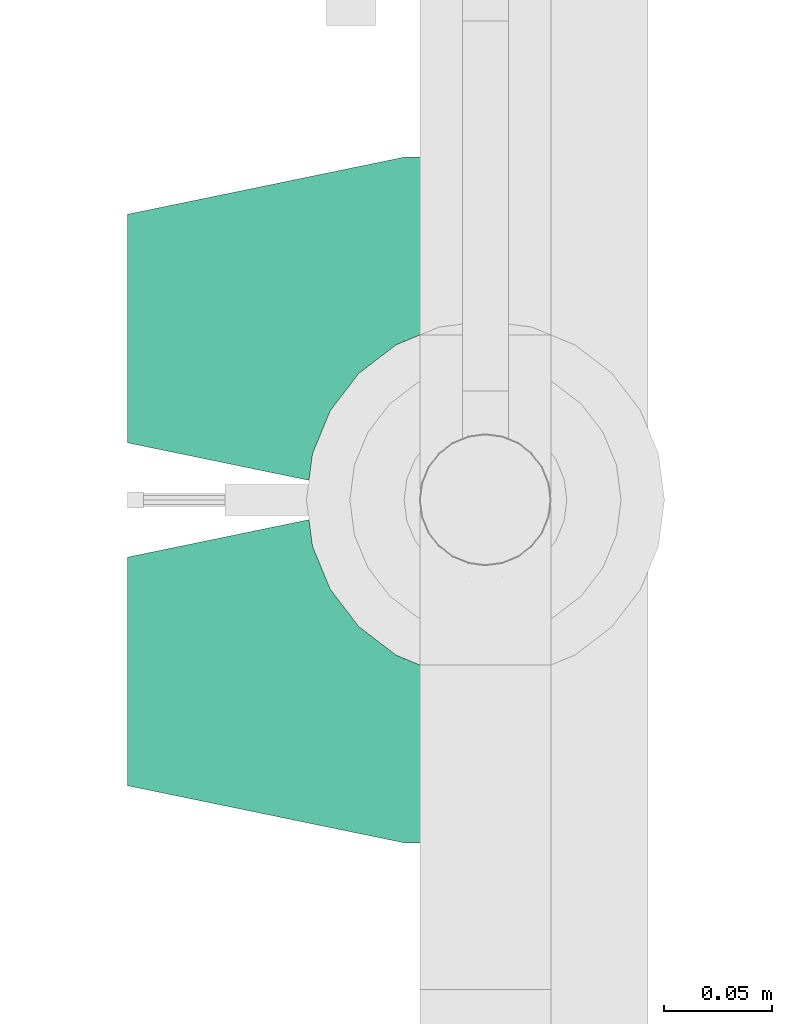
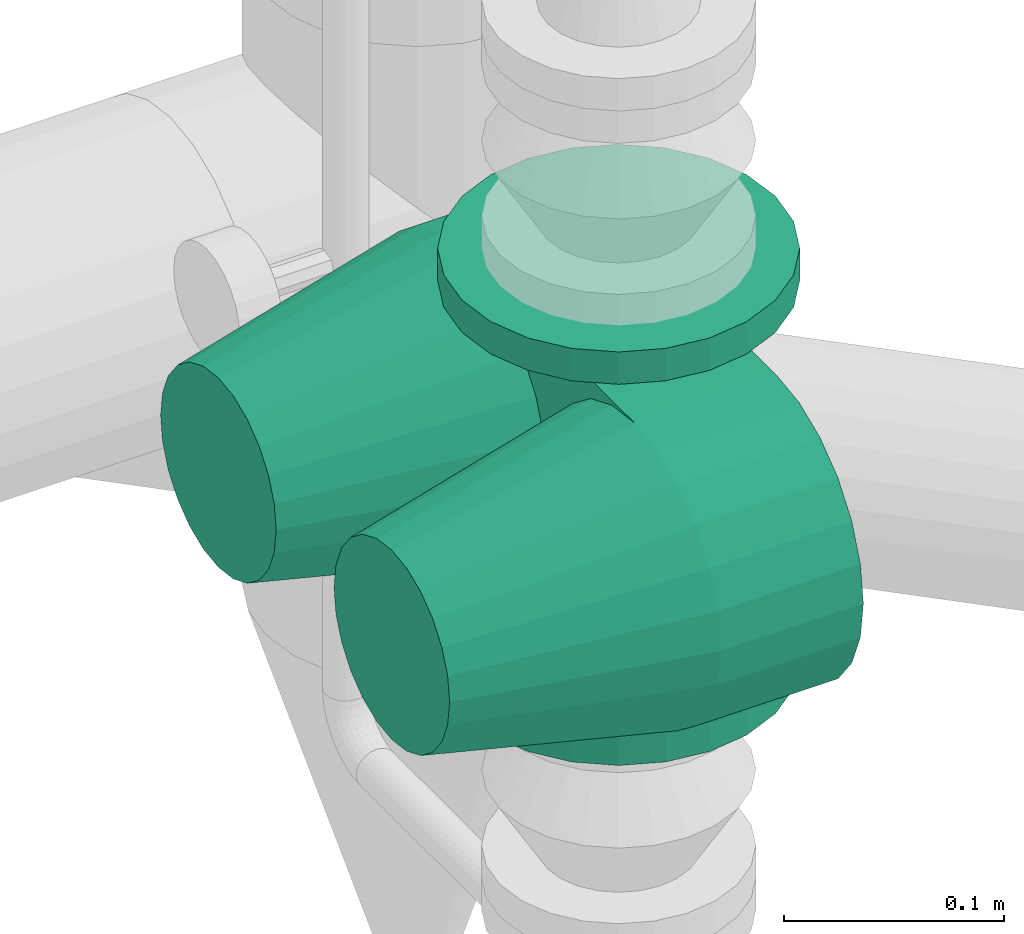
# One storey, part 289 of 374: 1 flow moving device.
"""IFC2X3 building model written with IfcOpenShell, lengths in metres."""

import ifcopenshell
import ifcopenshell.guid

model = None  # the IFC model being written
_history = None  # IfcOwnerHistory: only IFC2X3 demands one
_inside = {}  # id of a spatial element -> (the spatial element, [elements in it])
_under = {}  # id of a project, library or spatial element -> (it, [spatial elements below it])
_declared = {}  # id of a project -> (the project, [libraries it declares])
_typed = {}  # id of a type object -> (the type object, [elements of that type])
_made_of = {}  # id of a material, layer set ... -> (it, [elements and type objects made of it])


def new_model(schema):
    """Start an empty IFC model of exactly this schema.

    Asked for "IFC4X3", IfcOpenShell would pick the latest addendum, in which some entities
    have other attributes; the version numbers below select the first issue.
    IFC2X3 requires an IfcOwnerHistory on every rooted entity: one is made here for all.
    """
    global model, _history
    if schema == "IFC4X3":
        model = ifcopenshell.file(schema_version=(4, 3, 0, 0))
    else:
        model = ifcopenshell.file(schema=schema)
    _inside.clear()
    _under.clear()
    _declared.clear()
    _typed.clear()
    _made_of.clear()
    _history = None
    if model.schema == "IFC2X3":
        org = make("IfcOrganization", Name="unknown")
        user = make(
            "IfcPersonAndOrganization",
            ThePerson=make("IfcPerson", FamilyName="unknown"),
            TheOrganization=org,
        )
        app = make(
            "IfcApplication",
            ApplicationDeveloper=org,
            Version="unknown",
            ApplicationFullName="unknown",
            ApplicationIdentifier="unknown",
        )
        _history = make(
            "IfcOwnerHistory",
            OwningUser=user,
            OwningApplication=app,
            ChangeAction="ADDED",
            CreationDate=0,
        )
    return model


def make(cls, **values):
    """One entity of the class cls with the attributes given. An attribute that is None is left unset."""
    return model.create_entity(
        cls, **{name: value for name, value in values.items() if value is not None}
    )


def rooted(cls, **values):
    """An entity with a GlobalId (a new one), such as an element, a storey or a relation."""
    return make(cls, GlobalId=ifcopenshell.guid.new(), OwnerHistory=_history, **values)


def si_unit(unit_type, name, prefix=None):
    """IfcSIUnit, for example si_unit("LENGTHUNIT", "METRE", prefix="MILLI")."""
    return make("IfcSIUnit", UnitType=unit_type, Prefix=prefix, Name=name)


def assignment(units):
    """IfcUnitAssignment: the units of a project."""
    return None if units is None else make("IfcUnitAssignment", Units=units)


def point(xyz):
    """IfcCartesianPoint."""
    return None if xyz is None else make("IfcCartesianPoint", Coordinates=xyz)


def direction(xyz):
    """IfcDirection."""
    return None if xyz is None else make("IfcDirection", DirectionRatios=xyz)


def frame(location, z_axis=None, x_axis=None):
    """IfcAxis2Placement3D, a coordinate frame: its origin and axes. An axis left out is left unset."""
    return make(
        "IfcAxis2Placement3D",
        Location=point(location),
        Axis=direction(z_axis),
        RefDirection=direction(x_axis),
    )


def origin():
    """The frame at (0, 0, 0) with its axes left unset."""
    return frame((0.0, 0.0, 0.0))


def place(relative_to, where):
    """IfcLocalPlacement: puts the frame where relative to a parent placement (None: the world)."""
    return make(
        "IfcLocalPlacement", PlacementRelTo=relative_to, RelativePlacement=where
    )


def context(
    kind, dimensions, precision=None, world=None, true_north=None, identifier=None
):
    """IfcGeometricRepresentationContext, for example the 3D "Model" context."""
    return make(
        "IfcGeometricRepresentationContext",
        ContextIdentifier=identifier,
        ContextType=kind,
        CoordinateSpaceDimension=dimensions,
        Precision=precision,
        WorldCoordinateSystem=world,
        TrueNorth=true_north,
    )


def subcontext(parent, identifier, kind, view, scale=None):
    """IfcGeometricRepresentationSubContext, for example "Body" below "Model"."""
    return make(
        "IfcGeometricRepresentationSubContext",
        ContextIdentifier=identifier,
        ContextType=kind,
        ParentContext=parent,
        TargetScale=scale,
        TargetView=view,
    )


def project(units=None, contexts=None):
    """IfcProject with its units and contexts."""
    return rooted(
        "IfcProject",
        Name="project",
        RepresentationContexts=contexts,
        UnitsInContext=assignment(units),
    )


def spatial(cls, under=None, at=None, **own):
    """A site, building, storey or space (cls), placed at a placement, below another one or the project."""
    s = rooted(cls, ObjectPlacement=at, **own)
    if under is not None:
        _under.setdefault(under.id(), (under, []))[1].append(s)
    return s


def faces_of(points, faces, orient=None, outer=None):
    """IfcFace entities. A face is a list of loops; a loop is a list of indices into points, from 0.

    orient and outer hold one flag for each loop. By default every Orientation is true, the
    first loop of a face is its IfcFaceOuterBound and the others are IfcFaceBound.
    """
    made = []
    for i, loops in enumerate(faces):
        bounds = []
        for j, loop in enumerate(loops):
            is_outer = j == 0 if outer is None else outer[i][j]
            bounds.append(
                make(
                    "IfcFaceOuterBound" if is_outer else "IfcFaceBound",
                    Bound=make("IfcPolyLoop", Polygon=[points[k] for k in loop]),
                    Orientation=True if orient is None else orient[i][j],
                )
            )
        made.append(make("IfcFace", Bounds=bounds))
    return made


def open_shell(faces, orient=None, outer=None):
    """The faces of one IfcOpenShell. surface_model builds it on its shared points."""
    return ("IfcOpenShell", faces, orient, outer)


def surface_model(cls, points, shells):
    """IfcFaceBasedSurfaceModel or IfcShellBasedSurfaceModel (cls): surfaces that need not close."""
    shared = [point(p) for p in points]
    made = [make(c, CfsFaces=faces_of(shared, fs, o, b)) for c, fs, o, b in shells]
    if cls == "IfcFaceBasedSurfaceModel":
        return make(cls, FbsmFaces=made)
    return make(cls, SbsmBoundary=made)


def shape(context_of_items, identifier, shape_type, items):
    """IfcShapeRepresentation: the items that make up one representation, for example the "Body"."""
    return make(
        "IfcShapeRepresentation",
        ContextOfItems=context_of_items,
        RepresentationIdentifier=identifier,
        RepresentationType=shape_type,
        Items=items,
    )


def source(mapping_origin, context_of_items, identifier, shape_type, items):
    """IfcRepresentationMap: a shape defined once, which mapped items show again and again."""
    return make(
        "IfcRepresentationMap",
        MappingOrigin=mapping_origin,
        MappedRepresentation=shape(context_of_items, identifier, shape_type, items),
    )


def transform(
    local_origin,
    x_axis=None,
    y_axis=None,
    z_axis=None,
    scale=None,
    scale2=None,
    scale3=None,
    uniform=True,
):
    """IfcCartesianTransformationOperator3D, or its non-uniform kind. x_axis, y_axis, z_axis: its Axis1, 2, 3."""
    if uniform:
        return make(
            "IfcCartesianTransformationOperator3D",
            Axis1=direction(x_axis),
            Axis2=direction(y_axis),
            LocalOrigin=point(local_origin),
            Scale=scale,
            Axis3=direction(z_axis),
        )
    return make(
        "IfcCartesianTransformationOperator3DnonUniform",
        Axis1=direction(x_axis),
        Axis2=direction(y_axis),
        LocalOrigin=point(local_origin),
        Scale=scale,
        Axis3=direction(z_axis),
        Scale2=scale2,
        Scale3=scale3,
    )


def mapped(mapping_source, mapping_target):
    """IfcMappedItem: shows the shape of a source again, moved by a transform."""
    return make(
        "IfcMappedItem", MappingSource=mapping_source, MappingTarget=mapping_target
    )


def made_of(thing, what):
    """Note that an element or type object is made of a material, layer set ...; save() writes the relation."""
    if what is not None:
        _made_of.setdefault(what.id(), (what, []))[1].append(thing)
    return thing


def element(
    cls,
    number,
    at=None,
    inside=None,
    cuts=None,
    type_object=None,
    material=None,
    context=None,
    identifier="Body",
    shape_type=None,
    held_by="IfcProductDefinitionShape",
    body=None,
    shapes=None,
    **own,
):
    """One element of the class cls, such as IfcWall. Its Tag is "e" and its number.

    at: its placement. inside: the storey or other place that contains it. cuts: it is an
    opening in that element (IfcRelVoidsElement). A single representation is given by context,
    identifier, shape_type and body (its items); several are given by shapes. held_by: the class
    of the entity that holds the representations. save() writes the other relations.
    """
    e = rooted(cls, Tag="e%d" % number, ObjectPlacement=at, **own)
    if body is not None:
        shapes = [shape(context, identifier, shape_type, body)]
    if shapes is not None:
        e.Representation = make(held_by, Representations=shapes)
    if inside is not None:
        _inside.setdefault(inside.id(), (inside, []))[1].append(e)
    if cuts is not None:
        rooted(
            "IfcRelVoidsElement", RelatingBuildingElement=cuts, RelatedOpeningElement=e
        )
    if type_object is not None:
        _typed.setdefault(type_object.id(), (type_object, []))[1].append(e)
    return made_of(e, material)


def aggregate(whole, parts):
    """IfcRelAggregates: a whole, such as a stair, and the parts it consists of."""
    return rooted("IfcRelAggregates", RelatingObject=whole, RelatedObjects=parts)


def save(model, path):
    """Write the relations noted so far, then the file.

    IfcRelAggregates (storeys below a building ...), IfcRelContainedInSpatialStructure (elements
    in a storey), IfcRelDefinesByType, IfcRelAssociatesMaterial and IfcRelDeclares: one each for
    every whole, place, type object, material and project.
    """
    for whole, parts in _under.values():
        aggregate(whole, parts)
    for where, things in _inside.values():
        rooted(
            "IfcRelContainedInSpatialStructure",
            RelatedElements=things,
            RelatingStructure=where,
        )
    for kind, things in _typed.values():
        rooted("IfcRelDefinesByType", RelatedObjects=things, RelatingType=kind)
    for what, things in _made_of.values():
        rooted("IfcRelAssociatesMaterial", RelatedObjects=things, RelatingMaterial=what)
    for by, libraries in _declared.values():
        rooted("IfcRelDeclares", RelatingContext=by, RelatedDefinitions=libraries)
    model.write(path)


model = new_model("IFC2X3")

# Units and contexts
model_context = context("Model", 3, precision=1e-05, world=origin(), true_north=direction((-0.4480736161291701, 0.8939966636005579)))
body_context = subcontext(model_context, "Body", "Model", "MODEL_VIEW")
ifc_project = project(units=[si_unit("LENGTHUNIT", "METRE"), si_unit("AREAUNIT", "SQUARE_METRE"), si_unit("VOLUMEUNIT", "CUBIC_METRE"), si_unit("PLANEANGLEUNIT", "RADIAN"), si_unit("THERMODYNAMICTEMPERATUREUNIT", "KELVIN"), si_unit("MASSUNIT", "GRAM", prefix="KILO"), si_unit("TIMEUNIT", "SECOND")], contexts=[model_context])

# Site, building, storey
site_placement = place(None, origin())
site = spatial("IfcSite", under=ifc_project, at=site_placement, Name="Site 1", CompositionType="ELEMENT")
building_placement = place(site_placement, origin())
building = spatial("IfcBuilding", under=site, at=building_placement, Name="Undefined", CompositionType="ELEMENT")
storey_placement = place(building_placement, origin())
storey = spatial("IfcBuildingStorey", under=building, at=storey_placement, Name="Rez de chauss\x8ee", CompositionType="ELEMENT", Elevation=0.0)

# Flow moving device
shared_shape = source(origin(), body_context, "Body", "SurfaceModel", [
    surface_model("IfcFaceBasedSurfaceModel", [(0.0, 0.0, 0.0), (0.021536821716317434, 0.0, -3.552713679e-15), (0.021536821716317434, 0.018000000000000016, -3.552713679e-15), (0.0, 0.018000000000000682, -1.776356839e-15), (0.0423397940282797, 0.0, -0.005574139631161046), (0.0423397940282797, 0.018000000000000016, -0.005574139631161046), (0.06099122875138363, 0.0, -0.016342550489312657), (0.06099122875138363, 0.018000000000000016, -0.016342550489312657), (0.0762200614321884, 0.0, -0.03157138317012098), (0.0762200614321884, 0.018000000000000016, -0.03157138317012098), (0.08698847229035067, 0.0, -0.05022281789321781), (0.08698847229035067, 0.018000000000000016, -0.05022281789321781), (0.09256261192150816, 0.0, -0.07102579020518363), (0.09256261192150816, 0.018000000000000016, -0.07102579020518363), (0.09256261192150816, 0.0, -0.0925626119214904), (0.09256261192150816, 0.018000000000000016, -0.0925626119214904), (0.08698847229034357, 0.0, -0.11336558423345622), (0.08698847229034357, 0.018000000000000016, -0.11336558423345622), (0.07622006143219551, 0.0, -0.1320170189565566), (0.07622006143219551, 0.018000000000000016, -0.1320170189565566), (0.06099122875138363, 0.0, -0.14724585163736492), (0.06099122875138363, 0.018000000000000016, -0.14724585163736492), (0.042339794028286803, 0.0, -0.15801426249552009), (0.042339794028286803, 0.018000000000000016, -0.15801426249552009), (0.021536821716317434, 0.0, -0.16358840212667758), (0.021536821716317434, 0.018000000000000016, -0.16358840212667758), (7.105427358e-15, 0.0, -0.16358840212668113), (7.105427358e-15, 0.018000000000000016, -0.16358840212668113), (-0.02080297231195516, 0.0, -0.15801426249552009), (-0.02080297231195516, 0.018000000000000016, -0.15801426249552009), (-0.039454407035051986, 0.0, -0.14724585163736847), (-0.039454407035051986, 0.018000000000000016, -0.14724585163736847), (-0.05468323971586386, 0.0, -0.13201701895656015), (-0.05468323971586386, 0.018000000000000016, -0.13201701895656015), (-0.06545165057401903, 0.0, -0.11336558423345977), (-0.06545165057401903, 0.018000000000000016, -0.11336558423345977), (-0.07102579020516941, 0.0, -0.09256261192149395), (-0.07102579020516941, 0.018000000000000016, -0.09256261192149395), (-0.07102579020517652, 0.0, -0.07102579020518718), (-0.07102579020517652, 0.018000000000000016, -0.07102579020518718), (-0.06545165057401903, 0.0, -0.050222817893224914), (-0.06545165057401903, 0.018000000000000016, -0.050222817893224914), (-0.05468323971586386, 0.0, -0.03157138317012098), (-0.05468323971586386, 0.018000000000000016, -0.03157138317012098), (-0.03945440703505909, 0.0, -0.01634255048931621), (-0.03945440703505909, 0.018000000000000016, -0.01634255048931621), (-0.02080297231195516, 0.0, -0.005574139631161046), (-0.02080297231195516, 0.018000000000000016, -0.005574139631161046), (0.010768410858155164, 0.0, -0.08179420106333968), (0.01076841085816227, 0.018000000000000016, -0.08179420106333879), (0.04794759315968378, 0.018000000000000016, -0.07689946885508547), (0.04794759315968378, 0.018000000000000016, -0.0866889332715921), (0.04066047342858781, 0.03599999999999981, -0.08572956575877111), (0.040660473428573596, 0.03599999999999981, -0.0778588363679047), (0.045413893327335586, 0.018000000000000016, -0.09614482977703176), (0.038623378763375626, 0.03599999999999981, -0.09333210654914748), (0.04051916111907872, 0.018000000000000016, -0.10462275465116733), (0.034688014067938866, 0.03599999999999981, -0.1001483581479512), (0.03359696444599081, 0.018000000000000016, -0.11154495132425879), (0.02912256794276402, 0.03599999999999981, -0.10571380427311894), (0.02511903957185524, 0.018000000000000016, -0.1164396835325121), (0.022306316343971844, 0.03599999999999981, -0.10964916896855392), (0.015663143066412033, 0.018000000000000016, -0.11897338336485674), (0.014703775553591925, 0.03599999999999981, -0.11168626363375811), (0.0058736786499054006, 0.018000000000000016, -0.11897338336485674), (0.0068330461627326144, 0.03599999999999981, -0.111686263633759), (-0.0035822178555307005, 0.018000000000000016, -0.11643968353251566), (-0.0007694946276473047, 0.03599999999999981, -0.10964916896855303), (-0.012060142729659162, 0.018000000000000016, -0.11154495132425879), (-0.0075857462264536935, 0.03599999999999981, -0.10571380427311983), (-0.018982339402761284, 0.018000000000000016, -0.10462275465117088), (-0.013151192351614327, 0.03599999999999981, -0.10014835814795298), (-0.023877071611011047, 0.018000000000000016, -0.09614482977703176), (-0.017086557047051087, 0.03599999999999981, -0.0933321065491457), (-0.026410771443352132, 0.018000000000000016, -0.0866889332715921), (-0.019123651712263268, 0.03599999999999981, -0.08572956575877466), (-0.026410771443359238, 0.018000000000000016, -0.07689946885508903), (-0.019123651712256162, 0.03599999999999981, -0.0778588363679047), (-0.023877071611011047, 0.018000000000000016, -0.06744357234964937), (-0.017086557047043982, 0.03599999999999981, -0.07025629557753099), (-0.018982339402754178, 0.018000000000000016, -0.058965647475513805), (-0.013151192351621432, 0.03599999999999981, -0.06344004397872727), (-0.012060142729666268, 0.018000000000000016, -0.05204345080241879), (-0.0075857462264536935, 0.03599999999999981, -0.05787459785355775), (-0.0035822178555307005, 0.018000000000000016, -0.047148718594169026), (-0.0007694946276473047, 0.03599999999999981, -0.053939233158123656), (0.0058736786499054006, 0.018000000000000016, -0.04461501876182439), (0.006833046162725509, 0.03599999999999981, -0.05190213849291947), (0.01566314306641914, 0.018000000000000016, -0.044615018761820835), (0.014703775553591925, 0.03599999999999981, -0.05190213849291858), (0.02511903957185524, 0.018000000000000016, -0.04714871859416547), (0.022306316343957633, 0.03599999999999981, -0.053939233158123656), (0.0335969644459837, 0.018000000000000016, -0.05204345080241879), (0.029122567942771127, 0.03599999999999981, -0.05787459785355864), (0.04051916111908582, 0.018000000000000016, -0.05896564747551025), (0.03468801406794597, 0.03599999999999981, -0.06344004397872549), (0.045413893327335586, 0.018000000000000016, -0.06744357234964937), (0.03862337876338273, 0.03599999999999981, -0.0702562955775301), (0.040660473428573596, 0.19399999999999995, -0.0778588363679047), (0.04066047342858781, 0.19399999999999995, -0.08572956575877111), (0.04794759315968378, 0.21199999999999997, -0.0866889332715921), (0.04794759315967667, 0.21199999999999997, -0.07689946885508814), (0.038623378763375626, 0.19399999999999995, -0.09333210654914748), (0.04541389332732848, 0.21199999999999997, -0.09614482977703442), (0.034688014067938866, 0.19399999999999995, -0.1001483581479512), (0.04051916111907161, 0.21199999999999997, -0.1046227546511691), (0.02912256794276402, 0.19399999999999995, -0.10571380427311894), (0.03359696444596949, 0.21199999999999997, -0.1115449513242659), (0.022306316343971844, 0.19399999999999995, -0.10964916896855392), (0.025119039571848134, 0.21199999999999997, -0.11643968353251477), (0.014703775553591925, 0.19399999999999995, -0.11168626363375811), (0.015663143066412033, 0.21199999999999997, -0.11897338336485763), (0.0068330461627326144, 0.19399999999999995, -0.111686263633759), (0.005873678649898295, 0.21199999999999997, -0.1189733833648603), (-0.0007694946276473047, 0.19399999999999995, -0.10964916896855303), (-0.0035822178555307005, 0.21199999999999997, -0.11643968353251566), (-0.0075857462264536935, 0.19399999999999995, -0.10571380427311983), (-0.012060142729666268, 0.21199999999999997, -0.11154495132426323), (-0.013151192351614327, 0.19399999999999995, -0.10014835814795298), (-0.01898233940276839, 0.21199999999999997, -0.10462275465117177), (-0.017086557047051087, 0.19399999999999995, -0.0933321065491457), (-0.023877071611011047, 0.21199999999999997, -0.09614482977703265), (-0.019123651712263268, 0.19399999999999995, -0.08572956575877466), (-0.026410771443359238, 0.21199999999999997, -0.08668893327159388), (-0.019123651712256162, 0.19399999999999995, -0.0778588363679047), (-0.026410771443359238, 0.21199999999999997, -0.07689946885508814), (-0.017086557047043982, 0.19399999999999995, -0.07025629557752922), (-0.023877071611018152, 0.21199999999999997, -0.06744357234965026), (-0.013151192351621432, 0.19399999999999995, -0.06344004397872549), (-0.018982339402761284, 0.21199999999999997, -0.05896564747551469), (-0.0075857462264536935, 0.19399999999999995, -0.05787459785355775), (-0.012060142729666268, 0.21199999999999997, -0.05204345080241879), (-0.0007694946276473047, 0.19399999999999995, -0.05393923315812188), (-0.003582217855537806, 0.21199999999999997, -0.047148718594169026), (0.006833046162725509, 0.19399999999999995, -0.05190213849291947), (0.0058736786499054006, 0.21199999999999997, -0.044615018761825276), (0.014703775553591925, 0.19399999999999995, -0.051902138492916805), (0.015663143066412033, 0.21199999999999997, -0.0446150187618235), (0.022306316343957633, 0.19399999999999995, -0.053939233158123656), (0.025119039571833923, 0.21199999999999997, -0.047148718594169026), (0.029122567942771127, 0.19399999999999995, -0.057874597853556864), (0.033596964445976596, 0.21199999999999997, -0.052043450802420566), (0.03468801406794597, 0.19399999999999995, -0.06344004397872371), (0.04051916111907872, 0.21199999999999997, -0.05896564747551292), (0.03862337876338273, 0.19399999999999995, -0.0702562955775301), (0.045413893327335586, 0.21199999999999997, -0.0674435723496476), (0.0, 0.21199999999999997, -8.8817842e-16), (0.021536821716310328, 0.21199999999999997, 0.0), (0.021536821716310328, 0.22999999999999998, 0.0), (0.0, 0.22999999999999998, -8.8817842e-16), (0.0423397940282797, 0.21199999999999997, -0.005574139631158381), (0.0423397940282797, 0.22999999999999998, -0.005574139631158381), (0.06099122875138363, 0.21199999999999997, -0.016342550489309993), (0.06099122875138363, 0.22999999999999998, -0.016342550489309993), (0.0762200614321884, 0.21199999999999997, -0.03157138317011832), (0.0762200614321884, 0.22999999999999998, -0.03157138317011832), (0.08698847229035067, 0.21199999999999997, -0.05022281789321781), (0.08698847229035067, 0.22999999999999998, -0.05022281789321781), (0.09256261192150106, 0.21199999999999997, -0.07102579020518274), (0.09256261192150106, 0.22999999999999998, -0.07102579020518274), (0.09256261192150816, 0.21199999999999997, -0.09256261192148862), (0.09256261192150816, 0.22999999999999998, -0.09256261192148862), (0.08698847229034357, 0.21199999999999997, -0.11336558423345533), (0.08698847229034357, 0.22999999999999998, -0.11336558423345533), (0.07622006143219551, 0.21199999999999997, -0.1320170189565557), (0.07622006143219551, 0.22999999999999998, -0.1320170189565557), (0.06099122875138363, 0.21199999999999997, -0.14724585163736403), (0.06099122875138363, 0.22999999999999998, -0.14724585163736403), (0.0423397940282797, 0.21199999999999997, -0.1580142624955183), (0.0423397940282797, 0.22999999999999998, -0.1580142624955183), (0.021536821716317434, 0.21199999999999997, -0.1635884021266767), (0.021536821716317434, 0.22999999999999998, -0.1635884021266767), (7.105427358e-15, 0.21199999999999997, -0.16358840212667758), (7.105427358e-15, 0.22999999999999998, -0.16358840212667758), (-0.02080297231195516, 0.21199999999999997, -0.1580142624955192), (-0.02080297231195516, 0.22999999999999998, -0.1580142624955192), (-0.039454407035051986, 0.21199999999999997, -0.1472458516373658), (-0.039454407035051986, 0.22999999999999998, -0.1472458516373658), (-0.05468323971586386, 0.21199999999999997, -0.13201701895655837), (-0.05468323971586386, 0.22999999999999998, -0.13201701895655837), (-0.06545165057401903, 0.21199999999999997, -0.113365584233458), (-0.06545165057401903, 0.22999999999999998, -0.113365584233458), (-0.07102579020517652, 0.21199999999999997, -0.09256261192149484), (-0.07102579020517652, 0.22999999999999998, -0.09256261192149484), (-0.07102579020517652, 0.21199999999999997, -0.07102579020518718), (-0.07102579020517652, 0.22999999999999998, -0.07102579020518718), (-0.06545165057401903, 0.21199999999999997, -0.05022281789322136), (-0.06545165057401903, 0.22999999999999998, -0.05022281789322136), (-0.05468323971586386, 0.21199999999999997, -0.03157138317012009), (-0.05468323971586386, 0.22999999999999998, -0.03157138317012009), (-0.03945440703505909, 0.21199999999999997, -0.016342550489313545), (-0.03945440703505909, 0.22999999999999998, -0.016342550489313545), (-0.02080297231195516, 0.21199999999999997, -0.0055741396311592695), (-0.02080297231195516, 0.22999999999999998, -0.0055741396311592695), (0.010768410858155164, 0.21199999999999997, -0.08179420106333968), (0.010768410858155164, 0.22999999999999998, -0.08179420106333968), (-0.036722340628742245, 0.03600000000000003, -0.008364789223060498), (-0.016099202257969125, 0.03600000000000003, -0.16501307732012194), (0.058259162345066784, 0.03600000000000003, -0.1552236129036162), (0.037636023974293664, 0.03600000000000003, 0.0014246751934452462), (0.058259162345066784, 0.19399999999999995, -0.1552236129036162), (0.06092799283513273, 0.1913081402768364, -0.17549539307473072), (-0.013430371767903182, 0.1913081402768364, -0.18528485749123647), (-0.016099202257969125, 0.19399999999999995, -0.16501307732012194), (0.06341494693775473, 0.18341600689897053, -0.1943856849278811), (-0.010943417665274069, 0.18341600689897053, -0.20417514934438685), (0.06555054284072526, 0.17086143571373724, -0.21060714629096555), (-0.008807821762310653, 0.17086143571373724, -0.2203966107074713), (0.0671892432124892, 0.15450000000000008, -0.2230543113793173), (-0.007169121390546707, 0.15450000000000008, -0.23284377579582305), (0.0682193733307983, 0.13544670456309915, -0.2308789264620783), (-0.006138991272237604, 0.13544670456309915, -0.24066839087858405), (0.06857073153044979, 0.11499999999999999, -0.23354775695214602), (-0.005787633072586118, 0.11499999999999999, -0.24333722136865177), (0.0682193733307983, 0.09455329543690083, -0.2308789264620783), (-0.006138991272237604, 0.09455329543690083, -0.24066839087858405), (0.0671892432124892, 0.0754999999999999, -0.2230543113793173), (-0.007169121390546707, 0.0754999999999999, -0.23284377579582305), (0.06555054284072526, 0.05913856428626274, -0.21060714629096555), (-0.008807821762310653, 0.05913856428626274, -0.2203966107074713), (0.06341494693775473, 0.04658399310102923, -0.1943856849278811), (-0.010943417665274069, 0.04658399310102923, -0.20417514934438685), (0.06092799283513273, 0.03869185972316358, -0.17549539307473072), (-0.013430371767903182, 0.03869185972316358, -0.18528485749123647), (-0.036722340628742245, 0.19399999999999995, -0.008364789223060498), (0.037636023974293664, 0.19399999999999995, 0.0014246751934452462), (0.034967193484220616, 0.03869185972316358, 0.021696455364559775), (-0.039391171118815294, 0.03869185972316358, 0.01190699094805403), (0.03248023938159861, 0.04658399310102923, 0.04058674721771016), (-0.0418781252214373, 0.04658399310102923, 0.030797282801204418), (0.03034464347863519, 0.05913856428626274, 0.056808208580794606), (-0.04401372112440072, 0.05913856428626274, 0.04701874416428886), (0.028705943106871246, 0.0754999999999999, 0.06925537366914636), (-0.045652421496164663, 0.0754999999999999, 0.059465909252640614), (0.027675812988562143, 0.09455329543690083, 0.07707998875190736), (-0.046682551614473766, 0.09455329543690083, 0.06729052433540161), (0.027324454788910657, 0.11499999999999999, 0.07974881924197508), (-0.04703390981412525, 0.11499999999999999, 0.06995935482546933), (0.027675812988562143, 0.13544670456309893, 0.07707998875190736), (-0.046682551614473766, 0.13544670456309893, 0.06729052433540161), (0.028705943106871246, 0.15450000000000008, 0.06925537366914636), (-0.045652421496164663, 0.15450000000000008, 0.059465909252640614), (0.03034464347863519, 0.17086143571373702, 0.056808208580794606), (-0.04401372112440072, 0.17086143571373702, 0.04701874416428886), (0.03248023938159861, 0.18341600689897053, 0.04058674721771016), (-0.0418781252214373, 0.18341600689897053, 0.030797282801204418), (0.034967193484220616, 0.1913081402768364, 0.021696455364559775), (-0.039391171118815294, 0.1913081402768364, 0.01190699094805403), (-0.034053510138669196, 0.1913081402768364, -0.02863656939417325), (-0.1613523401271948, 0.165872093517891, -0.038521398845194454), (-0.16313156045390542, 0.16766666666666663, -0.025006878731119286), (-0.03156655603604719, 0.18341600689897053, -0.047526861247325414), (-0.15969437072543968, 0.1606106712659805, -0.0511149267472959), (-0.029430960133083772, 0.17086143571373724, -0.06374832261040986), (-0.1582706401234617, 0.15224095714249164, -0.06192923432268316), (-0.027792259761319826, 0.15450000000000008, -0.07619548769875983), (-0.15717817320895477, 0.14133333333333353, -0.07022734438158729), (-0.026762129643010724, 0.13544670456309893, -0.08402010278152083), (-0.15649141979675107, 0.12863113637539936, -0.07544375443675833), (-0.026410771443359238, 0.11499999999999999, -0.0866889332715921), (-0.15625718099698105, 0.11499999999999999, -0.07722297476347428), (-0.026762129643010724, 0.09455329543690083, -0.08402010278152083), (-0.15649141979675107, 0.10136886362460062, -0.07544375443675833), (-0.027792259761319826, 0.0754999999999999, -0.07619548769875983), (-0.15717817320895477, 0.08866666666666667, -0.07022734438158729), (-0.029430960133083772, 0.05913856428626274, -0.06374832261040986), (-0.1582706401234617, 0.07775904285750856, -0.06192923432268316), (-0.03156655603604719, 0.04658399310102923, -0.047526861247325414), (-0.15969437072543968, 0.0693893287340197, -0.0511149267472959), (-0.034053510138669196, 0.03869185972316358, -0.02863656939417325), (-0.1613523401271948, 0.0641279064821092, -0.038521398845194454), (-0.16313156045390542, 0.06233333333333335, -0.025006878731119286), (-0.16491078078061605, 0.0641279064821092, -0.011492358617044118), (-0.16656875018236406, 0.0693893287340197, 0.001101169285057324), (-0.16799248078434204, 0.07775904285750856, 0.011915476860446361), (-0.16908494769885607, 0.08866666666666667, 0.020213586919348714), (-0.16977170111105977, 0.10136886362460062, 0.025429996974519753), (-0.1700059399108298, 0.11499999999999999, 0.02720921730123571), (-0.16977170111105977, 0.12863113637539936, 0.025429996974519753), (-0.16908494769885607, 0.14133333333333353, 0.020213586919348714), (-0.16799248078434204, 0.15224095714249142, 0.011915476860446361), (-0.16656875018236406, 0.1606106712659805, 0.001101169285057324), (-0.16491078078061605, 0.165872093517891, -0.011492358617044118), (-0.16313156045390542, 0.11499999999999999, -0.025006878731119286), (-0.14072920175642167, 0.165872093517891, -0.1951696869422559), (-0.1425084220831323, 0.16766666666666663, -0.18165516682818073), (-0.13907123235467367, 0.1606106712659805, -0.2077632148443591), (-0.1376475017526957, 0.15224095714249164, -0.21857752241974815), (-0.13655503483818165, 0.14133333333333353, -0.22687563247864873), (-0.13586828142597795, 0.12863113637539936, -0.23209204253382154), (-0.13563404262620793, 0.11499999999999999, -0.23387126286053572), (-0.13586828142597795, 0.10136886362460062, -0.23209204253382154), (-0.13655503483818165, 0.08866666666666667, -0.22687563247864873), (-0.1376475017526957, 0.07775904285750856, -0.21857752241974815), (-0.13907123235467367, 0.0693893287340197, -0.2077632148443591), (-0.14072920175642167, 0.0641279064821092, -0.1951696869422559), (-0.1425084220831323, 0.06233333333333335, -0.18165516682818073), (-0.018768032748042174, 0.03869185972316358, -0.14474129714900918), (-0.14428764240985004, 0.0641279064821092, -0.16814064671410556), (-0.02125498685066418, 0.04658399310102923, -0.12585100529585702), (-0.14594561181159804, 0.0693893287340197, -0.15554711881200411), (-0.023390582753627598, 0.05913856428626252, -0.10962954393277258), (-0.14736934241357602, 0.07775904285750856, -0.14473281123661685), (-0.025029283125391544, 0.0754999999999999, -0.0971823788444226), (-0.14846180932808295, 0.08866666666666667, -0.1364347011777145), (-0.026059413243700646, 0.09455329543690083, -0.0893577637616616), (-0.14914856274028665, 0.10136886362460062, -0.13121829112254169), (-0.14938280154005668, 0.11499999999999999, -0.1294390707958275), (-0.026059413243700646, 0.13544670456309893, -0.0893577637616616), (-0.14914856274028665, 0.12863113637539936, -0.13121829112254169), (-0.025029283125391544, 0.15450000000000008, -0.0971823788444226), (-0.14846180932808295, 0.14133333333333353, -0.1364347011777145), (-0.023390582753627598, 0.17086143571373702, -0.10962954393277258), (-0.14736934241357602, 0.15224095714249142, -0.14473281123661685), (-0.02125498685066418, 0.18341600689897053, -0.12585100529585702), (-0.14594561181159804, 0.1606106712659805, -0.15554711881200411), (-0.018768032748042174, 0.1913081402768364, -0.14474129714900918), (-0.14428764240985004, 0.165872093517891, -0.16814064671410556), (-0.1425084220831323, 0.11499999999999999, -0.18165516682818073)], [open_shell([[[0, 1, 2, 3]], [[1, 4, 5, 2]], [[4, 6, 7, 5]], [[6, 8, 9, 7]], [[8, 10, 11, 9]], [[10, 12, 13, 11]], [[12, 14, 15, 13]], [[14, 16, 17, 15]], [[16, 18, 19, 17]], [[18, 20, 21, 19]], [[20, 22, 23, 21]], [[22, 24, 25, 23]], [[24, 26, 27, 25]], [[26, 28, 29, 27]], [[28, 30, 31, 29]], [[30, 32, 33, 31]], [[32, 34, 35, 33]], [[34, 36, 37, 35]], [[36, 38, 39, 37]], [[38, 40, 41, 39]], [[40, 42, 43, 41]], [[42, 44, 45, 43]], [[44, 46, 47, 45]], [[46, 0, 3, 47]], [[48, 1, 0]], [[48, 4, 1]], [[48, 6, 4]], [[48, 8, 6]], [[48, 10, 8]], [[48, 12, 10]], [[48, 14, 12]], [[48, 16, 14]], [[48, 18, 16]], [[48, 20, 18]], [[48, 22, 20]], [[48, 24, 22]], [[48, 26, 24]], [[48, 28, 26]], [[48, 30, 28]], [[48, 32, 30]], [[48, 34, 32]], [[48, 36, 34]], [[48, 38, 36]], [[48, 40, 38]], [[48, 42, 40]], [[48, 44, 42]], [[48, 46, 44]], [[48, 0, 46]], [[49, 47, 3]], [[49, 45, 47]], [[49, 43, 45]], [[49, 41, 43]], [[49, 39, 41]], [[49, 37, 39]], [[49, 35, 37]], [[49, 33, 35]], [[49, 31, 33]], [[49, 29, 31]], [[49, 27, 29]], [[49, 25, 27]], [[49, 23, 25]], [[49, 21, 23]], [[49, 19, 21]], [[49, 17, 19]], [[49, 15, 17]], [[49, 13, 15]], [[49, 11, 13]], [[49, 9, 11]], [[49, 7, 9]], [[49, 5, 7]], [[49, 2, 5]], [[49, 3, 2]], [[50, 51, 52, 53]], [[51, 54, 55, 52]], [[54, 56, 57, 55]], [[56, 58, 59, 57]], [[58, 60, 61, 59]], [[60, 62, 63, 61]], [[62, 64, 65, 63]], [[64, 66, 67, 65]], [[66, 68, 69, 67]], [[68, 70, 71, 69]], [[70, 72, 73, 71]], [[72, 74, 75, 73]], [[74, 76, 77, 75]], [[76, 78, 79, 77]], [[78, 80, 81, 79]], [[80, 82, 83, 81]], [[82, 84, 85, 83]], [[84, 86, 87, 85]], [[86, 88, 89, 87]], [[88, 90, 91, 89]], [[90, 92, 93, 91]], [[92, 94, 95, 93]], [[94, 96, 97, 95]], [[96, 50, 53, 97]], [[98, 99, 100, 101]], [[99, 102, 103, 100]], [[102, 104, 105, 103]], [[104, 106, 107, 105]], [[106, 108, 109, 107]], [[108, 110, 111, 109]], [[110, 112, 113, 111]], [[112, 114, 115, 113]], [[114, 116, 117, 115]], [[116, 118, 119, 117]], [[118, 120, 121, 119]], [[120, 122, 123, 121]], [[122, 124, 125, 123]], [[124, 126, 127, 125]], [[126, 128, 129, 127]], [[128, 130, 131, 129]], [[130, 132, 133, 131]], [[132, 134, 135, 133]], [[134, 136, 137, 135]], [[136, 138, 139, 137]], [[138, 140, 141, 139]], [[140, 142, 143, 141]], [[142, 144, 145, 143]], [[144, 98, 101, 145]], [[146, 147, 148, 149]], [[147, 150, 151, 148]], [[150, 152, 153, 151]], [[152, 154, 155, 153]], [[154, 156, 157, 155]], [[156, 158, 159, 157]], [[158, 160, 161, 159]], [[160, 162, 163, 161]], [[162, 164, 165, 163]], [[164, 166, 167, 165]], [[166, 168, 169, 167]], [[168, 170, 171, 169]], [[170, 172, 173, 171]], [[172, 174, 175, 173]], [[174, 176, 177, 175]], [[176, 178, 179, 177]], [[178, 180, 181, 179]], [[180, 182, 183, 181]], [[182, 184, 185, 183]], [[184, 186, 187, 185]], [[186, 188, 189, 187]], [[188, 190, 191, 189]], [[190, 192, 193, 191]], [[192, 146, 149, 193]], [[194, 147, 146]], [[194, 150, 147]], [[194, 152, 150]], [[194, 154, 152]], [[194, 156, 154]], [[194, 158, 156]], [[194, 160, 158]], [[194, 162, 160]], [[194, 164, 162]], [[194, 166, 164]], [[194, 168, 166]], [[194, 170, 168]], [[194, 172, 170]], [[194, 174, 172]], [[194, 176, 174]], [[194, 178, 176]], [[194, 180, 178]], [[194, 182, 180]], [[194, 184, 182]], [[194, 186, 184]], [[194, 188, 186]], [[194, 190, 188]], [[194, 192, 190]], [[194, 146, 192]], [[195, 193, 149]], [[195, 191, 193]], [[195, 189, 191]], [[195, 187, 189]], [[195, 185, 187]], [[195, 183, 185]], [[195, 181, 183]], [[195, 179, 181]], [[195, 177, 179]], [[195, 175, 177]], [[195, 173, 175]], [[195, 171, 173]], [[195, 169, 171]], [[195, 167, 169]], [[195, 165, 167]], [[195, 163, 165]], [[195, 161, 163]], [[195, 159, 161]], [[195, 157, 159]], [[195, 155, 157]], [[195, 153, 155]], [[195, 151, 153]], [[195, 148, 151]], [[195, 149, 148]], [[196, 197, 198, 199]], [[200, 201, 202, 203]], [[201, 204, 205, 202]], [[204, 206, 207, 205]], [[206, 208, 209, 207]], [[208, 210, 211, 209]], [[210, 212, 213, 211]], [[212, 214, 215, 213]], [[214, 216, 217, 215]], [[216, 218, 219, 217]], [[218, 220, 221, 219]], [[220, 222, 223, 221]], [[222, 198, 197, 223]], [[203, 224, 225, 200]], [[199, 226, 227, 196]], [[226, 228, 229, 227]], [[228, 230, 231, 229]], [[230, 232, 233, 231]], [[232, 234, 235, 233]], [[234, 236, 237, 235]], [[236, 238, 239, 237]], [[238, 240, 241, 239]], [[240, 242, 243, 241]], [[242, 244, 245, 243]], [[244, 246, 247, 245]], [[246, 225, 224, 247]], [[199, 198, 222]], [[199, 222, 220]], [[199, 220, 218]], [[199, 218, 216]], [[199, 216, 214]], [[199, 214, 212]], [[199, 212, 210]], [[199, 210, 208]], [[199, 208, 206]], [[199, 206, 204]], [[199, 204, 201]], [[199, 201, 200]], [[199, 200, 225]], [[199, 225, 246]], [[199, 246, 244]], [[199, 244, 242]], [[199, 242, 240]], [[199, 240, 238]], [[199, 238, 236]], [[199, 236, 234]], [[199, 234, 232]], [[199, 232, 230]], [[199, 230, 228]], [[199, 228, 226]], [[223, 197, 196]], [[221, 223, 196]], [[219, 221, 196]], [[217, 219, 196]], [[215, 217, 196]], [[213, 215, 196]], [[211, 213, 196]], [[209, 211, 196]], [[207, 209, 196]], [[205, 207, 196]], [[202, 205, 196]], [[203, 202, 196]], [[224, 203, 196]], [[247, 224, 196]], [[245, 247, 196]], [[243, 245, 196]], [[241, 243, 196]], [[239, 241, 196]], [[237, 239, 196]], [[235, 237, 196]], [[233, 235, 196]], [[231, 233, 196]], [[229, 231, 196]], [[227, 229, 196]], [[224, 248, 249, 250]], [[248, 251, 252, 249]], [[251, 253, 254, 252]], [[253, 255, 256, 254]], [[255, 257, 258, 256]], [[257, 259, 260, 258]], [[259, 261, 262, 260]], [[261, 263, 264, 262]], [[263, 265, 266, 264]], [[265, 267, 268, 266]], [[267, 269, 270, 268]], [[269, 196, 271, 270]], [[196, 227, 272, 271]], [[227, 229, 273, 272]], [[229, 231, 274, 273]], [[231, 233, 275, 274]], [[233, 235, 276, 275]], [[235, 237, 277, 276]], [[237, 239, 278, 277]], [[239, 241, 279, 278]], [[241, 243, 280, 279]], [[243, 245, 281, 280]], [[245, 247, 282, 281]], [[247, 224, 250, 282]], [[283, 282, 250]], [[283, 281, 282]], [[283, 280, 281]], [[283, 279, 280]], [[283, 278, 279]], [[283, 277, 278]], [[283, 276, 277]], [[283, 275, 276]], [[283, 274, 275]], [[283, 273, 274]], [[283, 272, 273]], [[283, 271, 272]], [[283, 270, 271]], [[283, 268, 270]], [[283, 266, 268]], [[283, 264, 266]], [[283, 262, 264]], [[283, 260, 262]], [[283, 258, 260]], [[283, 256, 258]], [[283, 254, 256]], [[283, 252, 254]], [[283, 249, 252]], [[283, 250, 249]], [[203, 202, 284, 285]], [[202, 205, 286, 284]], [[205, 207, 287, 286]], [[207, 209, 288, 287]], [[209, 211, 289, 288]], [[211, 213, 290, 289]], [[213, 215, 291, 290]], [[215, 217, 292, 291]], [[217, 219, 293, 292]], [[219, 221, 294, 293]], [[221, 223, 295, 294]], [[223, 197, 296, 295]], [[197, 297, 298, 296]], [[297, 299, 300, 298]], [[299, 301, 302, 300]], [[301, 303, 304, 302]], [[303, 305, 306, 304]], [[305, 259, 307, 306]], [[259, 308, 309, 307]], [[308, 310, 311, 309]], [[310, 312, 313, 311]], [[312, 314, 315, 313]], [[314, 316, 317, 315]], [[316, 203, 285, 317]], [[318, 317, 285]], [[318, 315, 317]], [[318, 313, 315]], [[318, 311, 313]], [[318, 309, 311]], [[318, 307, 309]], [[318, 306, 307]], [[318, 304, 306]], [[318, 302, 304]], [[318, 300, 302]], [[318, 298, 300]], [[318, 296, 298]], [[318, 295, 296]], [[318, 294, 295]], [[318, 293, 294]], [[318, 292, 293]], [[318, 291, 292]], [[318, 290, 291]], [[318, 289, 290]], [[318, 288, 289]], [[318, 287, 288]], [[318, 286, 287]], [[318, 284, 286]], [[318, 285, 284]]])]),
])
flow_moving_device_placement = place(storey_placement, origin())
element("IfcFlowMovingDevice", 1, at=flow_moving_device_placement, inside=storey, Name="Pompe double", ObjectType="Pompe double", context=body_context, shape_type="MappedRepresentation", body=[
    mapped(shared_shape, transform((54.999329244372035, 11.9151764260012, 1.211175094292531), x_axis=(0.9914448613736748, 0.13052619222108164, 0.0), y_axis=(0.0, 0.0, 1.0), z_axis=(0.13052619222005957, -0.9914448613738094, 0.0))),
])

save(model, "model.ifc")
